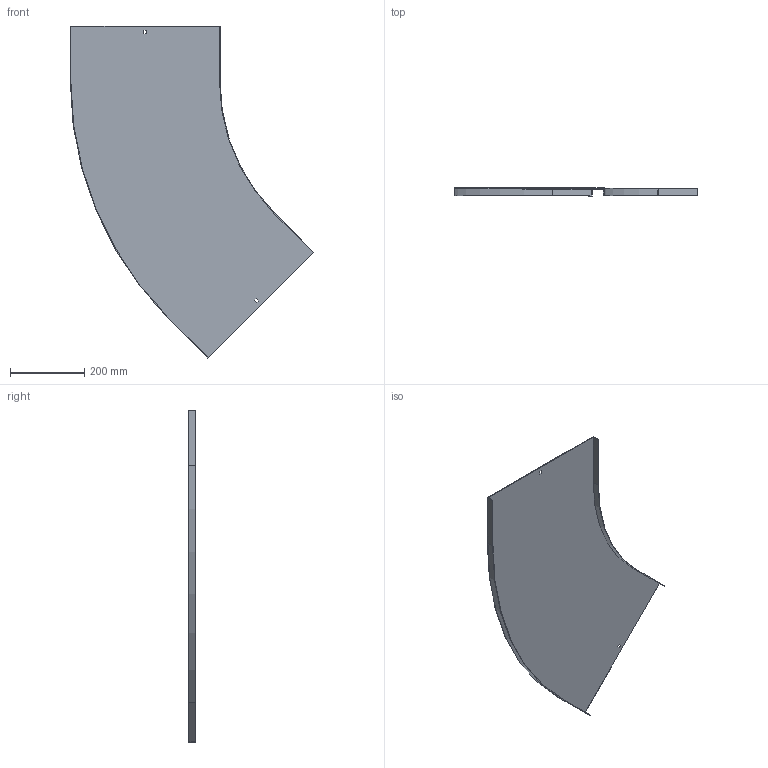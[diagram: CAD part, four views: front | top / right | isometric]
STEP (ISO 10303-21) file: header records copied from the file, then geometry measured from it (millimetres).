
FILE_DESCRIPTION (( 'STEP AP214' ), '1' );
FILE_NAME ('11N5R400.step', '2025-02-21T14:26:41', ( '' ), ( '' ), 'SwSTEP 2.0', 'SolidWorks 2023', '' );
FILE_SCHEMA (( 'AUTOMOTIVE_DESIGN' ));
Length unit declared in the file: millimetre
Products named in the file (1): 11N5R400
Bounding box: 655.07 x 20 x 893.52 mm (x, y, z)
Volume: 560678.5 mm3; surface area: 751533.6 mm2
Topology: 1 solids, 1 shells, 26 faces, 72 edges, 48 vertices
Faces by surface type: plane 22, cylinder 4
Entity records: 855 total; most frequent: CARTESIAN_POINT 147, ORIENTED_EDGE 144, DIRECTION 134, EDGE_CURVE 72, LINE 64, VECTOR 64, VERTEX_POINT 48, AXIS2_PLACEMENT_3D 35
